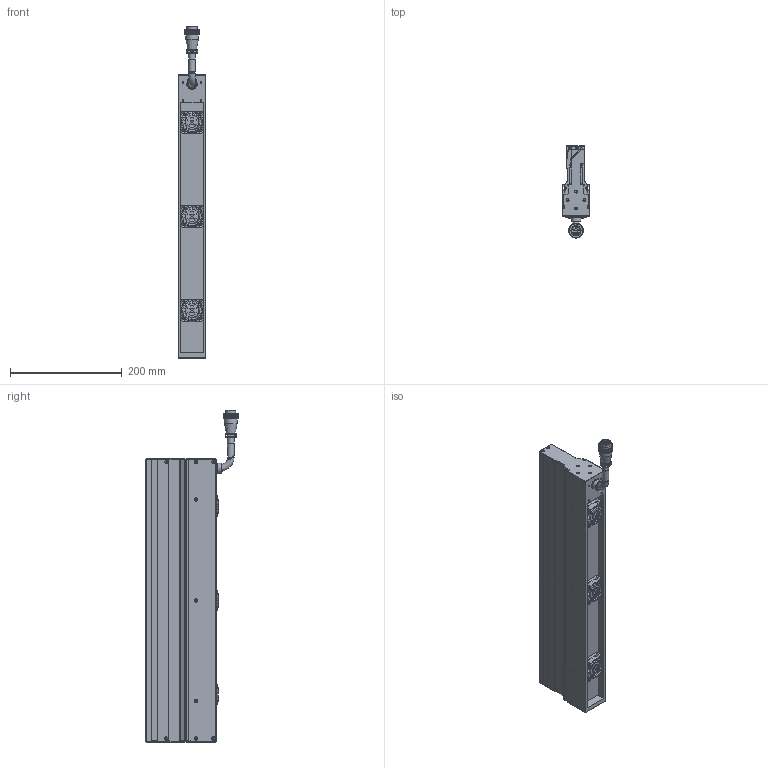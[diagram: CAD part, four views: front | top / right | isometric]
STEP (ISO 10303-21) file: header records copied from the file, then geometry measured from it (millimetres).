
FILE_DESCRIPTION (( 'STEP AP203' ), '1' );
FILE_NAME ('OPT-LSSC506-R-V3.1U尨砩芞.STEP', '2025-02-05T07:34:33', ( 'USER' ), ( '' ), 'SwSTEP 2.0', 'SolidWorks 2016', '' );
FILE_SCHEMA (( 'CONFIG_CONTROL_DESIGN' ));
Products named in the file (2): OPT-LSSC506-R-V3.1U尨砩芞
Bounding box: 50 x 164.5 x 593.1 mm (x, y, z)
Volume: 1950319.7 mm3; surface area: 374965.7 mm2
Topology: 18 solids, 26 shells, 2575 faces, 6669 edges, 4235 vertices
Faces by surface type: bspline 1024, cylinder 752, plane 611, torus 123, cone 65
Full cylindrical faces by diameter (mm): 1 x2, 1.6 x12, 2 x3, 2.5 x26, 3 x4, 3.2 x16, 3.4 x24, 3.5 x4, 5 x8, 6.2 x12, 8 x1, 11.6 x1, 11.7 x3, 12 x1, 15 x1, 15.9 x1, 17.5 x1, 18 x1, 18.5 x1, 22.8 x1, 24 x1, 24.8 x3, 38 x3
Entity records: 97992 total; most frequent: CARTESIAN_POINT 46869, ORIENTED_EDGE 12648, DIRECTION 6494, EDGE_CURVE 6324, VERTEX_POINT 4150, B_SPLINE_CURVE_WITH_KNOTS 3938, EDGE_LOOP 2960, FACE_OUTER_BOUND 2764
